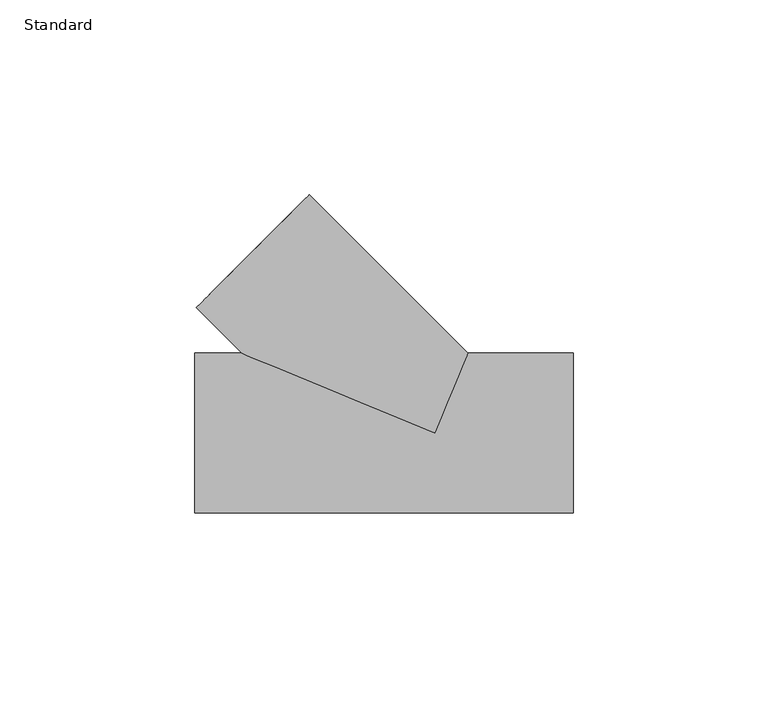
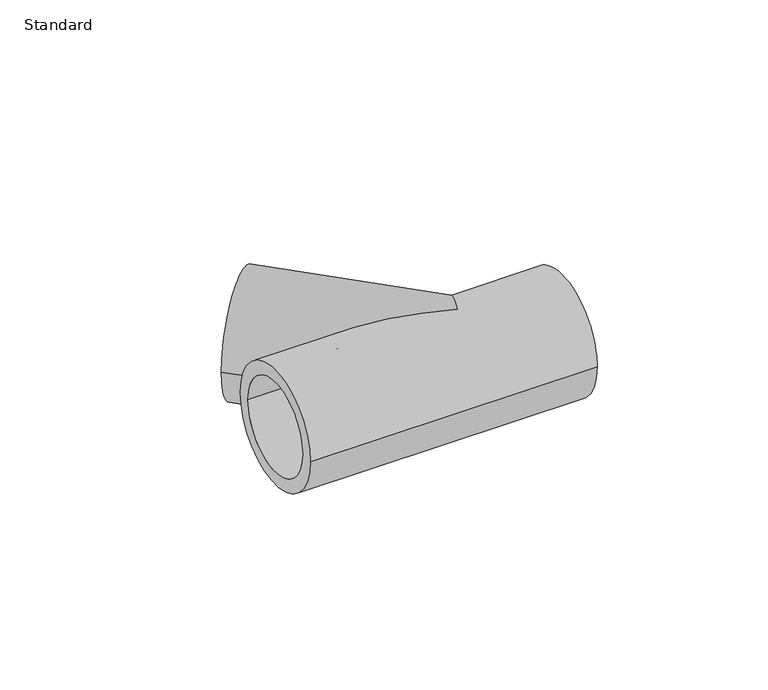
"""IFC4 building model written with IfcOpenShell, lengths in millimetres: pipe fitting geometry, Durapipe_PipeFitting_PVC_Tee45deg : Standard."""

from ifc_helpers import new_model, si_unit, frame, origin, place, context, project, spatial, polyline, circle_curve, ellipse_curve, source, transform, mapped, element, save
from ifc_brep_helpers import plane_surface, cylinder_surface, revolved_surface, advanced_brep


def standard_0de1f3e2(model_context):
    return source(origin(), model_context, "Body", "AdvancedBrep", [
        advanced_brep(
        [(-61.1647366, 32.1733585, 0.0), (-32.1733585, 61.1647366, 0.0), (-57.9827561, 35.3553391, 0.0), (-35.3553391, 57.9827561, 0.0), (-49.491378, 20.5, 0.0), (0.0, 0.0, 20.5), (8.491378, 20.5, 0.0), (0.0, 0.0, -20.5), (-61.5, -20.5, 0.0), (-61.5, 20.5, 0.0), (-61.5, -16.0, 0.0), (-61.5, 16.0, 0.0), (35.5, -20.5, 0.0), (35.5, 20.5, 0.0), (35.5, 16.0, 0.0), (35.5, -16.0, 0.0), (-31.1126984, 31.1126984, 0.0), (-19.7989899, 42.4264069, 0.0), (-42.4264069, 19.7989899, 0.0), (-35.0, -16.0, 0.0), (-35.0, 0.0, 0.0), (-35.0, 16.0, 0.0), (9.0, -16.0, 0.0), (9.0, 16.0, 0.0), (9.0, 0.0, 0.0)],
        [
            (0, 1, circle_curve(frame((-46.6690476, 46.6690476, 0.0), z_axis=(-0.7071067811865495, 0.7071067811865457, 0.0), x_axis=(0.7071067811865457, 0.7071067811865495, 0.0)), 20.5)),
            (1, 0, circle_curve(frame((-46.6690476, 46.6690476, 0.0), z_axis=(-0.7071067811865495, 0.7071067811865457, 0.0), x_axis=(0.7071067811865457, 0.7071067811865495, 0.0)), 20.5)),
            (2, 3, circle_curve(frame((-46.6690476, 46.6690476, 0.0), z_axis=(0.7071067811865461, -0.707106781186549, 0.0), x_axis=(-0.707106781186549, -0.7071067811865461, 0.0)), 16.0)),
            (3, 2, circle_curve(frame((-46.6690476, 46.6690476, 0.0), z_axis=(0.7071067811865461, -0.707106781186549, 0.0), x_axis=(-0.707106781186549, -0.7071067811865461, 0.0)), 16.0)),
            (0, 4),
            (4, 5, ellipse_curve(frame((0.0, 0.0, 0.0), z_axis=(0.38268343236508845, 0.9238795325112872, 0.0), x_axis=(-0.9238795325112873, 0.3826834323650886, 0.0)), 53.5690816, 20.5)),
            (5, 6, ellipse_curve(frame((0.0, 0.0, 0.0), z_axis=(-0.9238795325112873, 0.38268343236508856, 0.0), x_axis=(0.3826834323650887, 0.9238795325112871, 0.0)), 22.1890401, 20.5)),
            (6, 1),
            (6, 7, ellipse_curve(frame((0.0, 0.0, 0.0), z_axis=(-0.9238795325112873, 0.38268343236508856, 0.0), x_axis=(0.3826834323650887, 0.9238795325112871, 0.0)), 22.1890401, 20.5)),
            (7, 4, ellipse_curve(frame((0.0, 0.0, 0.0), z_axis=(0.38268343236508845, 0.9238795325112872, 0.0), x_axis=(-0.9238795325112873, 0.3826834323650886, 0.0)), 53.5690816, 20.5)),
            (8, 9, circle_curve(frame((-61.5, 0.0, 0.0), z_axis=(-1.0, 0.0, 0.0), x_axis=(0.0, 1.0, 0.0)), 20.5)),
            (9, 8, circle_curve(frame((-61.5, 0.0, 0.0), z_axis=(-1.0, 0.0, 0.0), x_axis=(0.0, 1.0, 0.0)), 20.5)),
            (10, 11, circle_curve(frame((-61.5, 0.0, 0.0), z_axis=(1.0, 0.0, 0.0), x_axis=(0.0, 1.0, 0.0)), 16.0)),
            (11, 10, circle_curve(frame((-61.5, 0.0, 0.0), z_axis=(1.0, 0.0, 0.0), x_axis=(0.0, 1.0, 0.0)), 16.0)),
            (12, 13, circle_curve(frame((35.5, 0.0, 0.0), z_axis=(1.0, 0.0, 0.0), x_axis=(0.0, 1.0, 0.0)), 20.5)),
            (13, 12, circle_curve(frame((35.5, 0.0, 0.0), z_axis=(1.0, 0.0, 0.0), x_axis=(0.0, 1.0, 0.0)), 20.5)),
            (14, 15, circle_curve(frame((35.5, 0.0, 0.0), z_axis=(-1.0, 0.0, 0.0), x_axis=(0.0, 1.0, 0.0)), 16.0)),
            (15, 14, circle_curve(frame((35.5, 0.0, 0.0), z_axis=(-1.0, 0.0, 0.0), x_axis=(0.0, 1.0, 0.0)), 16.0)),
            (8, 12),
            (13, 6),
            (4, 9),
            (16, 17),
            (17, 18, circle_curve(frame((-31.1126984, 31.1126984, 0.0), z_axis=(-0.7071067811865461, 0.707106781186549, 0.0), x_axis=(-0.707106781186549, -0.7071067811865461, 0.0)), 16.0)),
            (18, 16),
            (18, 17, circle_curve(frame((-31.1126984, 31.1126984, 0.0), z_axis=(-0.7071067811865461, 0.707106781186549, 0.0), x_axis=(-0.707106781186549, -0.7071067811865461, 0.0)), 16.0)),
            (17, 3),
            (2, 18),
            (19, 20),
            (20, 21),
            (21, 19, circle_curve(frame((-35.0, 0.0, 0.0), z_axis=(-1.0, 0.0, 0.0), x_axis=(0.0, 1.0, 0.0)), 16.0)),
            (19, 21, circle_curve(frame((-35.0, 0.0, 0.0), z_axis=(-1.0, 0.0, 0.0), x_axis=(0.0, 1.0, 0.0)), 16.0)),
            (21, 11),
            (10, 19),
            (22, 15),
            (14, 23),
            (23, 22, circle_curve(frame((9.0, 0.0, 0.0), z_axis=(-1.0, 0.0, 0.0), x_axis=(0.0, 1.0, 0.0)), 16.0)),
            (22, 23, circle_curve(frame((9.0, 0.0, 0.0), z_axis=(-1.0, 0.0, 0.0), x_axis=(0.0, 1.0, 0.0)), 16.0)),
            (23, 24),
            (24, 22),
        ],
        [
            plane_surface(frame((-46.6690476, 46.6690476, 0.0), z_axis=(-0.7071067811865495, 0.7071067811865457, 0.0), x_axis=(0.0, 0.0, 1.0))),
            cylinder_surface(frame((-46.6690476, 46.6690476, 0.0), z_axis=(-0.7071067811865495, 0.7071067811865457, 0.0), x_axis=(0.7071067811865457, 0.7071067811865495, 0.0)), 20.5),
            plane_surface(frame((-61.5, 0.0, 0.0), z_axis=(-1.0, 0.0, 0.0), x_axis=(0.0, 0.0, 1.0))),
            plane_surface(frame((35.5, 0.0, 0.0), z_axis=(1.0, 0.0, 0.0), x_axis=(0.0, 0.0, 1.0))),
            cylinder_surface(frame((-61.5, 0.0, 0.0), z_axis=(-1.0, 0.0, 0.0), x_axis=(0.0, 1.0, 0.0)), 20.5),
            plane_surface(frame((-31.1126984, 31.1126984, 0.0), z_axis=(-0.7071067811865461, 0.707106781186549, 0.0), x_axis=(-0.707106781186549, -0.7071067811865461, 0.0))),
            revolved_surface(polyline([(-42.4264068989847, 19.798989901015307, 0.0), (-57.98275609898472, 35.35533910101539, 0.0)]), (0.0, 0.0, 0.0), (0.7071067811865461, -0.707106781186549, 0.0)),
            plane_surface(frame((-35.0, 0.0, 0.0), z_axis=(-1.0, 0.0, 0.0), x_axis=(0.0, 1.0, 0.0))),
            revolved_surface(polyline([(-61.5, 16.0, 0.0), (-35.0, 16.0, 0.0)]), (2011.5, 0.0, 0.0), (-1.0, 0.0, 0.0)),
            revolved_surface(polyline([(9.0, 16.0, 0.0), (35.5, 16.0, 0.0)]), (1980.5, 0.0, 0.0), (-1.0, 0.0, 0.0)),
            plane_surface(frame((9.0, 0.0, 0.0), z_axis=(1.0, 0.0, 0.0), x_axis=(0.0, 1.0, 0.0))),
        ],
        [
            (0, [[1, 2], [3, 4]]),
            (1, [[-1, 5, 6, 7, 8]]),
            (1, [[-2, -8, 9, 10, -5]]),
            (2, [[11, 12], [13, 14]]),
            (3, [[15, 16], [17, 18]]),
            (4, [[-11, 19, -16, 20, -7, -6, 21]]),
            (4, [[-12, -21, -10, -9, -20, -15, -19]]),
            (5, [[22, 23, 24]]),
            (5, [[-22, -24, 25]]),
            (6, [[-23, 26, -3, 27]]),
            (6, [[-25, -27, -4, -26]]),
            (7, [[28, 29, 30]]),
            (7, [[-28, 31, -29]]),
            (8, [[-30, 32, -13, 33]]),
            (8, [[-31, -33, -14, -32]]),
            (9, [[34, -17, 35, 36]]),
            (9, [[-34, 37, -35, -18]]),
            (10, [[-36, 38, 39]]),
            (10, [[-37, -39, -38]]),
        ],
    ),
    ])


if __name__ == "__main__":
    model = new_model("IFC4")
    model_context = context("Model", 3, world=origin())
    ifc_project = project(units=[si_unit("LENGTHUNIT", "METRE", prefix="MILLI")], contexts=[model_context])
    site = spatial("IfcSite", under=ifc_project)
    building = spatial("IfcBuilding", under=site)
    placement = place(None, origin())
    standard_shape = standard_0de1f3e2(model_context)
    element("IfcPipeFitting", 1, ObjectType="Durapipe_PipeFitting_PVC_Tee45deg : Standard", at=placement, inside=building, context=model_context, shape_type="MappedRepresentation", body=[
        mapped(standard_shape, transform((0.0, 0.0, 0.0), x_axis=(1.0, 0.0, 0.0), y_axis=(0.0, 1.0, 0.0), z_axis=(0.0, 0.0, 1.0))),
    ])
    save(model, "model.ifc")
